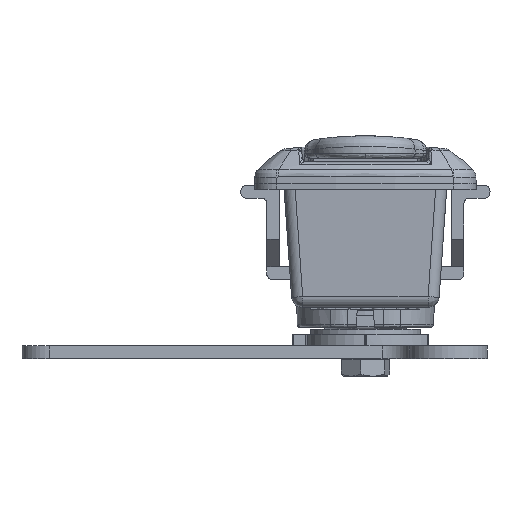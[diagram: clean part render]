
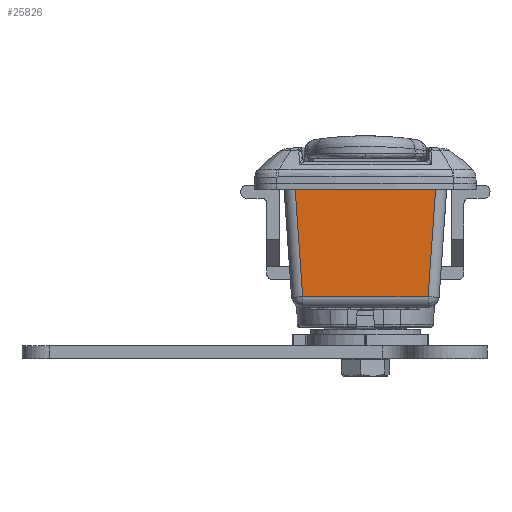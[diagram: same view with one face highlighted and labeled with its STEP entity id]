
A CAD part, front view. The second image highlights one B-rep face of the part: STEP entity #25826.
In plain terms, the highlighted planar face has unit normal (0, -1, -0.027).
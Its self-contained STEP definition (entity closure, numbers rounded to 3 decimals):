
#1561 = EDGE_CURVE ( 'NONE', #17211, #25634, #30607, .T. ) ;
#2318 = ORIENTED_EDGE ( 'NONE', *, *, #8267, .F. ) ;
#2319 = ORIENTED_EDGE ( 'NONE', *, *, #25821, .T. ) ;
#2320 = ORIENTED_EDGE ( 'NONE', *, *, #26266, .T. ) ;
#2322 = ORIENTED_EDGE ( 'NONE', *, *, #1561, .T. ) ;
#8267 = EDGE_CURVE ( 'NONE', #25554, #25634, #53402, .T. ) ;
#9180 = VERTEX_POINT ( 'NONE', #61639 ) ;
#11233 = EDGE_LOOP ( 'NONE', ( #2318, #2319, #2320, #2322 ) ) ;
#17211 = VERTEX_POINT ( 'NONE', #102778 ) ;
#25554 = VERTEX_POINT ( 'NONE', #60009 ) ;
#25634 = VERTEX_POINT ( 'NONE', #60073 ) ;
#25821 = EDGE_CURVE ( 'NONE', #25554, #9180, #60253, .T. ) ;
#25826 = ADVANCED_FACE ( 'NONE', ( #60266 ), #60262, .T. ) ;
#26266 = EDGE_CURVE ( 'NONE', #9180, #17211, #94639, .T. ) ;
#30603 = CARTESIAN_POINT ( 'NONE',  ( -14.751, -120.254, 5.526 ) ) ;
#30607 = LINE ( 'NONE', #30603, #53676 ) ;
#30611 = DIRECTION ( 'NONE',  ( 1., 0., 0. ) ) ;
#53402 = B_SPLINE_CURVE_WITH_KNOTS ( 'NONE', 3,
 ( #57892, #57889, #57884, #57894 ),
 .UNSPECIFIED., .F., .F.,
 ( 4, 4 ),
 ( 0.049, 1. ),
 .UNSPECIFIED. ) ;
#53676 = VECTOR ( 'NONE', #30611, 1000. ) ;
#57884 = CARTESIAN_POINT ( 'NONE',  ( 11.776, -120.43, 11.984 ) ) ;
#57889 = CARTESIAN_POINT ( 'NONE',  ( 12.228, -120.605, 18.442 ) ) ;
#57892 = CARTESIAN_POINT ( 'NONE',  ( 12.68, -120.781, 24.9 ) ) ;
#57894 = CARTESIAN_POINT ( 'NONE',  ( 11.324, -120.254, 5.526 ) ) ;
#60009 = CARTESIAN_POINT ( 'NONE',  ( 12.68, -120.781, 24.9 ) ) ;
#60073 = CARTESIAN_POINT ( 'NONE',  ( 11.324, -120.254, 5.526 ) ) ;
#60253 = LINE ( 'NONE', #60257, #61596 ) ;
#60257 = CARTESIAN_POINT ( 'NONE',  ( 0., -120.781, 24.9 ) ) ;
#60260 = DIRECTION ( 'NONE',  ( -1., 0., 0. ) ) ;
#60262 = PLANE ( 'NONE',  #61620 ) ;
#60266 = FACE_OUTER_BOUND ( 'NONE', #11233, .T. ) ;
#60313 = CARTESIAN_POINT ( 'NONE',  ( -14.751, -119.766, -12.463 ) ) ;
#60316 = DIRECTION ( 'NONE',  ( 0., -1., -0.027 ) ) ;
#60318 = DIRECTION ( 'NONE',  ( 0., 0.027, -1. ) ) ;
#61596 = VECTOR ( 'NONE', #60260, 1000. ) ;
#61620 = AXIS2_PLACEMENT_3D ( 'NONE', #60313, #60316, #60318 ) ;
#61639 = CARTESIAN_POINT ( 'NONE',  ( -12.679, -120.781, 24.9 ) ) ;
#92286 = VECTOR ( 'NONE', #94643, 1000. ) ;
#94639 = LINE ( 'NONE', #94642, #92286 ) ;
#94642 = CARTESIAN_POINT ( 'NONE',  ( -12.749, -120.808, 25.9 ) ) ;
#94643 = DIRECTION ( 'NONE',  ( 0.07, 0.027, -0.997 ) ) ;
#102778 = CARTESIAN_POINT ( 'NONE',  ( -11.324, -120.254, 5.526 ) ) ;
